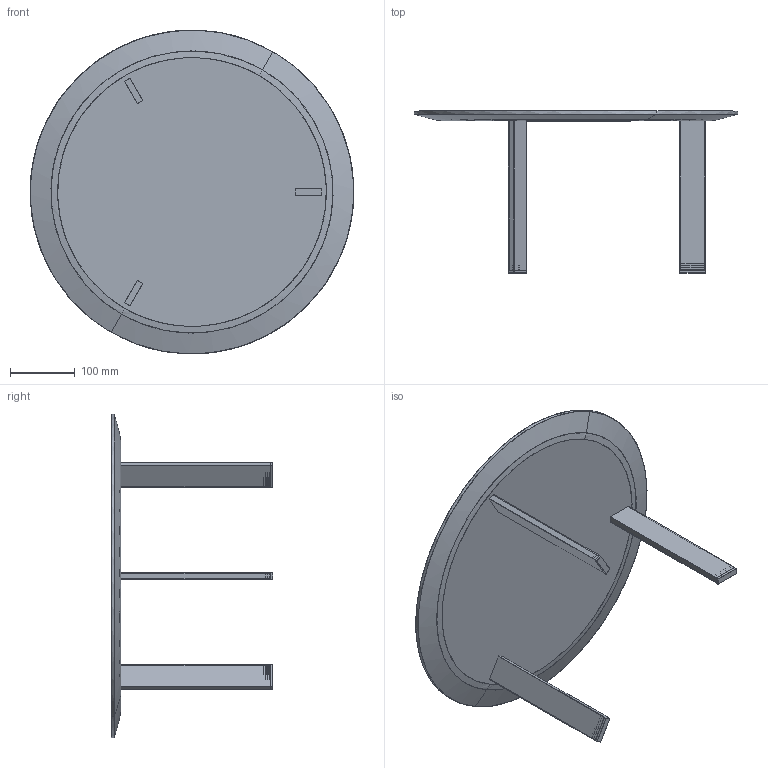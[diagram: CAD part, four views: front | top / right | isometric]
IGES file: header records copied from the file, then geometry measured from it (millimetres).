
Start section: SolidWorks IGES file using NURBS representation for surfaces
Global section: file name: G:\Recover\PRODUCTOS\29-RYUTARO\04-MODELADOS (PLANOS)\3D para WEB\IGS\50d25h.IGS; native system: SolidWorks 2009; preprocessor: SolidWorks 2009; author: RUBEN; date: 110629.132403; units: millimetre
Bounding box: 499.94 x 250 x 499.86 mm (x, y, z)
Surface area: 554812.3 mm2 (no closed solid volume)
Topology: 0 solids, 0 shells, 215 faces, 1064 edges, 1040 vertices
Faces by surface type: bspline 215
